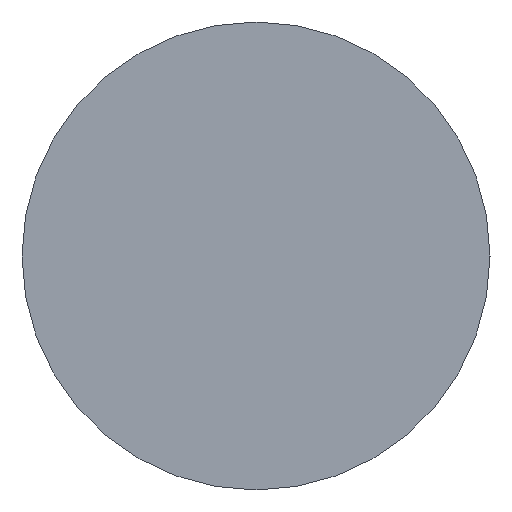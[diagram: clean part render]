
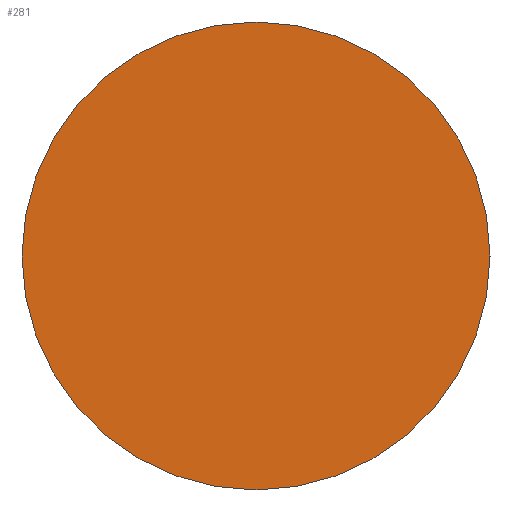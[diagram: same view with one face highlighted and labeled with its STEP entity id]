
A CAD part, left-side view. The second image highlights one B-rep face of the part: STEP entity #281.
In plain terms, the highlighted planar face has unit normal (-1, 0, 0).
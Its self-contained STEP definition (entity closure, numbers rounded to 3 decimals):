
#262 = DIRECTION ( 'NONE',  ( 0., 0., 1. ) ) ;
#281 = ADVANCED_FACE ( 'NONE', ( #458 ), #345, .F. ) ;
#294 = DIRECTION ( 'NONE',  ( -1., 0., 0. ) ) ;
#312 = CARTESIAN_POINT ( 'NONE',  ( 0., 0., 12.5 ) ) ;
#345 = PLANE ( 'NONE',  #770 ) ;
#375 = CARTESIAN_POINT ( 'NONE',  ( 0., 0., 0. ) ) ;
#393 = CARTESIAN_POINT ( 'NONE',  ( 0., 0., 0. ) ) ;
#398 = VERTEX_POINT ( 'NONE', #312 ) ;
#458 = FACE_OUTER_BOUND ( 'NONE', #727, .T. ) ;
#489 = DIRECTION ( 'NONE',  ( 0., 0., -1. ) ) ;
#490 = CIRCLE ( 'NONE', #567, 12.5 ) ;
#493 = ORIENTED_EDGE ( 'NONE', *, *, #621, .T. ) ;
#519 = DIRECTION ( 'NONE',  ( 1., 0., 0. ) ) ;
#523 = DIRECTION ( 'NONE',  ( 0., 0., 1. ) ) ;
#525 = DIRECTION ( 'NONE',  ( -1., 0., 0. ) ) ;
#531 = AXIS2_PLACEMENT_3D ( 'NONE', #560, #525, #523 ) ;
#560 = CARTESIAN_POINT ( 'NONE',  ( 0., 0., 0. ) ) ;
#567 = AXIS2_PLACEMENT_3D ( 'NONE', #375, #294, #262 ) ;
#621 = EDGE_CURVE ( 'NONE', #398, #779, #665, .T. ) ;
#648 = ORIENTED_EDGE ( 'NONE', *, *, #694, .T. ) ;
#665 = CIRCLE ( 'NONE', #531, 12.5 ) ;
#694 = EDGE_CURVE ( 'NONE', #779, #398, #490, .T. ) ;
#727 = EDGE_LOOP ( 'NONE', ( #493, #648 ) ) ;
#765 = CARTESIAN_POINT ( 'NONE',  ( 0., 0., -12.5 ) ) ;
#770 = AXIS2_PLACEMENT_3D ( 'NONE', #393, #519, #489 ) ;
#779 = VERTEX_POINT ( 'NONE', #765 ) ;
